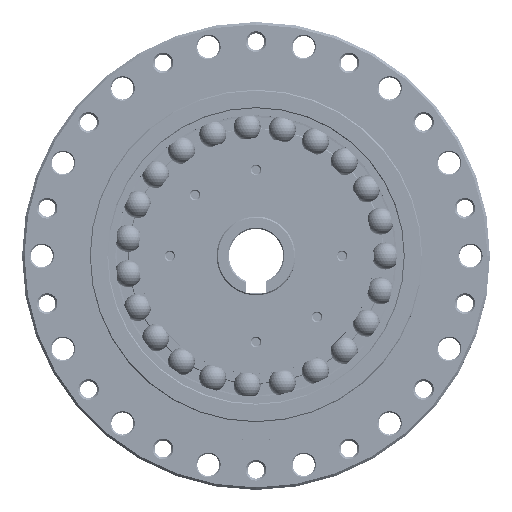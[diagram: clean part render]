
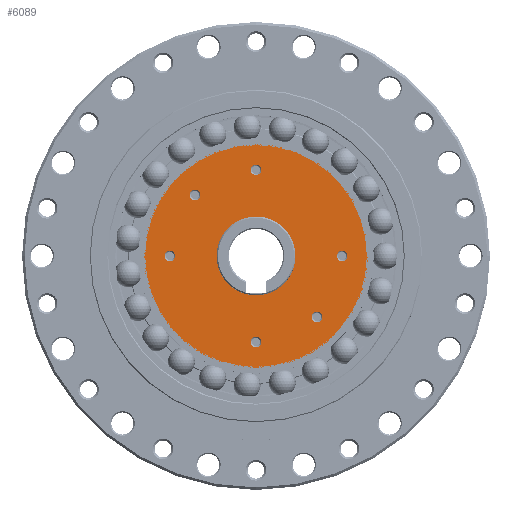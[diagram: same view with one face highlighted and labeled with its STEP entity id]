
A CAD part, top view. The second image highlights one B-rep face of the part: STEP entity #6089.
In plain terms, the highlighted planar face has unit normal (0, 0, 1).
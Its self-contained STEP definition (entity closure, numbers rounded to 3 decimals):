
#5185=PLANE('',#18154);
#6089=ADVANCED_FACE('',(#7341,#7342,#7343,#7344,#7345,#7346,#7347,#7348),
#5185,.T.);
#7341=FACE_BOUND('',#8793,.T.);
#7342=FACE_BOUND('',#8794,.T.);
#7343=FACE_BOUND('',#8795,.T.);
#7344=FACE_BOUND('',#8796,.T.);
#7345=FACE_BOUND('',#8797,.T.);
#7346=FACE_BOUND('',#8798,.T.);
#7347=FACE_BOUND('',#8799,.T.);
#7348=FACE_BOUND('',#8800,.T.);
#8793=EDGE_LOOP('',(#12444));
#8794=EDGE_LOOP('',(#12445));
#8795=EDGE_LOOP('',(#12446));
#8796=EDGE_LOOP('',(#12447));
#8797=EDGE_LOOP('',(#12448));
#8798=EDGE_LOOP('',(#12449));
#8799=EDGE_LOOP('',(#12450));
#8800=EDGE_LOOP('',(#12451));
#12444=ORIENTED_EDGE('',*,*,#16042,.T.);
#12445=ORIENTED_EDGE('',*,*,#16043,.T.);
#12446=ORIENTED_EDGE('',*,*,#16044,.T.);
#12447=ORIENTED_EDGE('',*,*,#16045,.T.);
#12448=ORIENTED_EDGE('',*,*,#16046,.T.);
#12449=ORIENTED_EDGE('',*,*,#16047,.T.);
#12450=ORIENTED_EDGE('',*,*,#16048,.T.);
#12451=ORIENTED_EDGE('',*,*,#16041,.F.);
#14149=VERTEX_POINT('',#226067);
#14150=VERTEX_POINT('',#226070);
#14151=VERTEX_POINT('',#226072);
#14152=VERTEX_POINT('',#226074);
#14153=VERTEX_POINT('',#226076);
#14154=VERTEX_POINT('',#226078);
#14155=VERTEX_POINT('',#226080);
#14156=VERTEX_POINT('',#226082);
#16041=EDGE_CURVE('',#14149,#14149,#16781,.T.);
#16042=EDGE_CURVE('',#14150,#14150,#16782,.T.);
#16043=EDGE_CURVE('',#14151,#14151,#16783,.T.);
#16044=EDGE_CURVE('',#14152,#14152,#16784,.T.);
#16045=EDGE_CURVE('',#14153,#14153,#16785,.T.);
#16046=EDGE_CURVE('',#14154,#14154,#16786,.T.);
#16047=EDGE_CURVE('',#14155,#14155,#16787,.T.);
#16048=EDGE_CURVE('',#14156,#14156,#16788,.T.);
#16781=CIRCLE('',#18145,16.);
#16782=CIRCLE('',#18147,45.5);
#16783=CIRCLE('',#18148,2.15);
#16784=CIRCLE('',#18149,2.15);
#16785=CIRCLE('',#18150,2.15);
#16786=CIRCLE('',#18151,2.15);
#16787=CIRCLE('',#18152,2.15);
#16788=CIRCLE('',#18153,2.15);
#18145=AXIS2_PLACEMENT_3D('',#226066,#21412,#21413);
#18147=AXIS2_PLACEMENT_3D('',#226069,#21416,#21417);
#18148=AXIS2_PLACEMENT_3D('',#226071,#21418,#21419);
#18149=AXIS2_PLACEMENT_3D('',#226073,#21420,#21421);
#18150=AXIS2_PLACEMENT_3D('',#226075,#21422,#21423);
#18151=AXIS2_PLACEMENT_3D('',#226077,#21424,#21425);
#18152=AXIS2_PLACEMENT_3D('',#226079,#21426,#21427);
#18153=AXIS2_PLACEMENT_3D('',#226081,#21428,#21429);
#18154=AXIS2_PLACEMENT_3D('',#226083,#21430,#21431);
#21412=DIRECTION('',(0.,0.,1.));
#21413=DIRECTION('',(1.,0.,0.));
#21416=DIRECTION('',(0.,0.,1.));
#21417=DIRECTION('',(1.,0.,0.));
#21418=DIRECTION('',(0.,0.,-1.));
#21419=DIRECTION('',(1.,0.,0.));
#21420=DIRECTION('',(0.,0.,-1.));
#21421=DIRECTION('',(1.,0.,0.));
#21422=DIRECTION('',(0.,0.,-1.));
#21423=DIRECTION('',(1.,0.,0.));
#21424=DIRECTION('',(0.,0.,-1.));
#21425=DIRECTION('',(1.,0.,0.));
#21426=DIRECTION('',(0.,0.,-1.));
#21427=DIRECTION('',(1.,0.,0.));
#21428=DIRECTION('',(0.,0.,-1.));
#21429=DIRECTION('',(1.,0.,0.));
#21430=DIRECTION('',(0.,0.,1.));
#21431=DIRECTION('',(1.,0.,0.));
#226066=CARTESIAN_POINT('',(0.,0.,
20.));
#226067=CARTESIAN_POINT('',(16.,0.,20.));
#226069=CARTESIAN_POINT('',(0.,0.,
20.));
#226070=CARTESIAN_POINT('',(45.5,0.,20.));
#226071=CARTESIAN_POINT('',(0.,-35.,20.));
#226072=CARTESIAN_POINT('',(2.15,-35.,20.));
#226073=CARTESIAN_POINT('',(24.749,-24.749,20.));
#226074=CARTESIAN_POINT('',(26.899,-24.749,20.));
#226075=CARTESIAN_POINT('',(35.,0.,20.));
#226076=CARTESIAN_POINT('',(37.15,0.,20.));
#226077=CARTESIAN_POINT('',(0.,35.,20.));
#226078=CARTESIAN_POINT('',(2.15,35.,20.));
#226079=CARTESIAN_POINT('',(-35.,0.,20.));
#226080=CARTESIAN_POINT('',(-32.85,0.,20.));
#226081=CARTESIAN_POINT('',(-24.749,24.749,20.));
#226082=CARTESIAN_POINT('',(-22.599,24.749,20.));
#226083=CARTESIAN_POINT('',(0.,0.,
20.));
